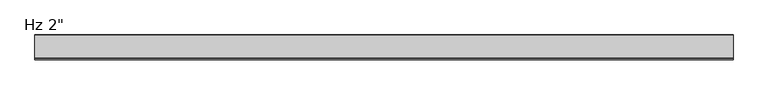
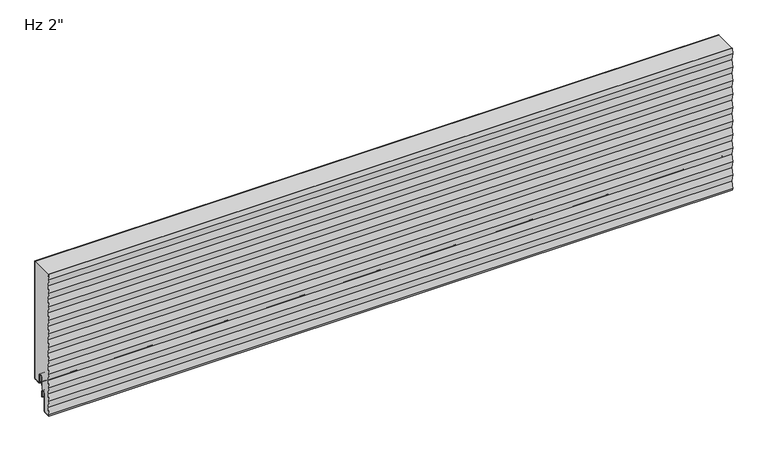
"""IFC4 building model written with IfcOpenShell, lengths in millimetres: plate geometry."""

from ifc_helpers import new_model, si_unit, point, frame, frame_2d, origin, place, context, project, spatial, polyline, circle_curve, trimmed, segment, composite_curve, outline, extrude, source, transform, mapped, element, save


def plate_b97aee9c(model_context):
    return source(origin(), model_context, "Body", "SweptSolid", [
        extrude(outline(composite_curve([segment(polyline([(-50.9378194, 255.9488175), (-49.2656302, 266.4), (-1.0, 266.4), (-1.0, 3.175)]), True, "CONTINUOUS"), segment(trimmed(circle_curve(frame_2d((-2.38125, 3.175)), 1.38125), [point((-1.0, 3.175))], [point((-2.38125, 1.79375))], False, "CARTESIAN"), True, "CONTINUOUS"), segment(polyline([(-2.38125, 1.79375), (-15.08125, 1.79375)]), True, "CONTINUOUS"), segment(trimmed(circle_curve(frame_2d((-15.08125, 3.175)), 1.38125), [point((-15.08125, 1.79375))], [point((-16.4625, 3.175))], False, "CARTESIAN"), True, "CONTINUOUS"), segment(polyline([(-16.4625, 3.175), (-16.4625, 19.05)]), True, "CONTINUOUS"), segment(trimmed(circle_curve(frame_2d((-21.43125, 19.05)), 4.96875), [point((-16.4625, 19.05))], [point((-26.4, 19.05))], True, "CARTESIAN"), True, "CONTINUOUS"), segment(polyline([(-26.4, 19.05), (-26.4, -6.9375), (-30.95625, -6.9375)]), True, "CONTINUOUS"), segment(trimmed(circle_curve(frame_2d((-30.95625, -11.90625)), 4.96875), [point((-30.95625, -6.9375))], [point((-35.925, -11.90625))], True, "CARTESIAN"), True, "CONTINUOUS"), segment(polyline([(-35.925, -11.90625), (-35.925, -50.0895546)]), True, "CONTINUOUS"), segment(trimmed(circle_curve(frame_2d((-37.30625, -50.0895546)), 1.38125), [point((-35.925, -50.0895546))], [point((-37.233961, -51.4689117))], False, "CARTESIAN"), True, "CONTINUOUS"), segment(polyline([(-37.233961, -51.4689117), (-50.4085109, -52.1593606), (-50.9378194, -48.8511825), (-48.4994194, -33.6111825), (-50.9378194, -18.3711825), (-48.4994194, -3.1311825), (-50.9378194, 12.1088175), (-48.4994194, 27.3488175), (-50.9378194, 42.5888175), (-48.4994194, 57.8288175), (-50.9378194, 73.0688175), (-48.4994194, 88.3088175), (-50.9378194, 103.5488175), (-48.4994194, 118.7888175), (-50.9378194, 134.0288175), (-48.4994194, 149.2688175), (-50.9378194, 164.5088175), (-48.4994194, 179.7488175), (-50.9378194, 194.9888175), (-48.4994194, 210.2288175), (-50.9378194, 225.4688175), (-48.4994194, 240.7088175), (-50.9378194, 255.9488175)]), True, "CONTINUOUS")], self_intersect=False)), frame((-730.0, 0.0, 0.0), z_axis=(1.0, 0.0, 0.0), x_axis=(0.0, 1.0, 0.0)), (0.0, 0.0, 1.0), 1460.0),
        extrude(outline(composite_curve([segment(polyline([(-25.4, 0.79375), (-26.4, 0.79375), (-26.4, 19.05)]), True, "CONTINUOUS"), segment(trimmed(circle_curve(frame_2d((-21.43125, 19.05)), 4.96875), [point((-26.4, 19.05))], [point((-16.4625, 19.05))], False, "CARTESIAN"), True, "CONTINUOUS"), segment(polyline([(-16.4625, 19.05), (-16.4625, 3.175)]), True, "CONTINUOUS"), segment(trimmed(circle_curve(frame_2d((-15.08125, 3.175)), 1.38125), [point((-16.4625, 3.175))], [point((-15.08125, 1.79375))], True, "CARTESIAN"), True, "CONTINUOUS"), segment(polyline([(-15.08125, 1.79375), (-2.38125, 1.79375)]), True, "CONTINUOUS"), segment(trimmed(circle_curve(frame_2d((-2.38125, 3.175)), 1.38125), [point((-2.38125, 1.79375))], [point((-1.0, 3.175))], True, "CARTESIAN"), True, "CONTINUOUS"), segment(polyline([(-1.0, 3.175), (-1.0, 266.4), (0.0, 266.4), (0.0, 3.175)]), True, "CONTINUOUS"), segment(trimmed(circle_curve(frame_2d((-2.38125, 3.175)), 2.38125), [point((0.0, 3.175))], [point((-2.38125, 0.79375))], False, "CARTESIAN"), True, "CONTINUOUS"), segment(polyline([(-2.38125, 0.79375), (-15.08125, 0.79375)]), True, "CONTINUOUS"), segment(trimmed(circle_curve(frame_2d((-15.08125, 3.175)), 2.38125), [point((-15.08125, 0.79375))], [point((-17.4625, 3.175))], False, "CARTESIAN"), True, "CONTINUOUS"), segment(polyline([(-17.4625, 3.175), (-17.4625, 19.05)]), True, "CONTINUOUS"), segment(trimmed(circle_curve(frame_2d((-21.43125, 19.05)), 3.96875), [point((-17.4625, 19.05))], [point((-25.4, 19.05))], True, "CARTESIAN"), True, "CONTINUOUS"), segment(polyline([(-25.4, 19.05), (-25.4, 0.79375)]), True, "CONTINUOUS")], self_intersect=False)), frame((-730.0, 0.0, 0.0), z_axis=(1.0, 0.0, 0.0), x_axis=(0.0, 1.0, 0.0)), (0.0, 0.0, 1.0), 1460.0),
        extrude(outline(composite_curve([segment(trimmed(circle_curve(frame_2d((-26.19375, -23.2314549)), 0.79375), [point((-25.4, -23.2314549))], [point((-26.9875, -23.2314549))], False, "CARTESIAN"), True, "CONTINUOUS"), segment(polyline([(-26.9875, -23.2314549), (-26.9875, -11.9205174)]), True, "CONTINUOUS"), segment(trimmed(circle_curve(frame_2d((-30.95625, -11.9205174)), 3.96875), [point((-26.9875, -11.9205174))], [point((-34.925, -11.9205174))], True, "CARTESIAN"), True, "CONTINUOUS"), segment(polyline([(-34.925, -11.9205174), (-34.925, -50.1038221)]), True, "CONTINUOUS"), segment(trimmed(circle_curve(frame_2d((-37.30625, -50.1038221)), 2.38125), [point((-34.925, -50.1038221))], [point((-37.181625, -52.4818086))], False, "CARTESIAN"), True, "CONTINUOUS"), segment(polyline([(-37.181625, -52.4818086), (-51.3543553, -53.22457), (-52.0509395, -48.8709186), (-49.6125395, -33.6309186), (-52.0509395, -18.3909186), (-49.6125395, -3.1509186), (-52.0509395, 12.0890814), (-49.6125395, 27.3290814), (-52.0509395, 42.5690814), (-49.6125395, 57.8090814), (-52.0509395, 73.0490814), (-49.6125395, 88.2890814), (-52.0509395, 103.5290814), (-49.6125395, 118.7690814), (-52.0509395, 134.0090814), (-49.6125395, 149.2490814), (-52.0509395, 164.4890814), (-49.6125395, 179.7290814), (-52.0509395, 194.9690814), (-49.6125395, 210.2090814), (-52.0509395, 225.4490814), (-49.6125395, 240.6890814), (-52.0509395, 255.9290814), (-50.3755925, 266.4), (-49.3628734, 266.4), (-51.0382204, 255.9290814), (-48.5998204, 240.6890814), (-51.0382204, 225.4490814), (-48.5998204, 210.2090814), (-51.0382204, 194.9690814), (-48.5998204, 179.7290814), (-51.0382204, 164.4890814), (-48.5998204, 149.2490814), (-51.0382204, 134.0090814), (-48.5998204, 118.7690814), (-51.0382204, 103.5290814), (-48.5998204, 88.2890814), (-51.0382204, 73.0490814), (-48.5998204, 57.8090814), (-51.0382204, 42.5690814), (-48.5998204, 27.3290814), (-51.0382204, 12.0890814), (-48.5998204, -3.1509186), (-51.0382204, -18.3909186), (-48.5998204, -33.6309186), (-51.0382204, -48.8709186), (-50.5089447, -52.1788915), (-37.233961, -51.4831791)]), True, "CONTINUOUS"), segment(trimmed(circle_curve(frame_2d((-37.30625, -50.1038221)), 1.38125), [point((-37.233961, -51.4831791))], [point((-35.925, -50.1038221))], True, "CARTESIAN"), True, "CONTINUOUS"), segment(polyline([(-35.925, -50.1038221), (-35.925, -11.9205174)]), True, "CONTINUOUS"), segment(trimmed(circle_curve(frame_2d((-30.95625, -11.9205174)), 4.96875), [point((-35.925, -11.9205174))], [point((-25.9875, -11.9205174))], False, "CARTESIAN"), True, "CONTINUOUS"), segment(polyline([(-25.9875, -11.9205174), (-26.19375, -13.5080174), (-25.4, -13.5080174), (-25.4, -23.2314549)]), True, "CONTINUOUS")], self_intersect=False)), frame((-730.0, 0.0, 0.0), z_axis=(1.0, 0.0, 0.0), x_axis=(0.0, 1.0, 0.0)), (0.0, 0.0, 1.0), 1460.0),
    ])


if __name__ == "__main__":
    model = new_model("IFC4")
    model_context = context("Model", 3, world=origin())
    ifc_project = project(units=[si_unit("LENGTHUNIT", "METRE", prefix="MILLI")], contexts=[model_context])
    site = spatial("IfcSite", under=ifc_project)
    building = spatial("IfcBuilding", under=site)
    placement = place(None, origin())
    plate_shape = plate_b97aee9c(model_context)
    element("IfcPlate", 1, ObjectType="KIP-42-DWHR-R19-CP-Hz-S : Hz 2\"", at=placement, inside=building, context=model_context, shape_type="MappedRepresentation", body=[
        mapped(plate_shape, transform((0.0, 0.0, 0.0), x_axis=(1.0, 0.0, 0.0), y_axis=(0.0, 1.0, 0.0), z_axis=(0.0, 0.0, 1.0))),
    ])
    save(model, "model.ifc")
